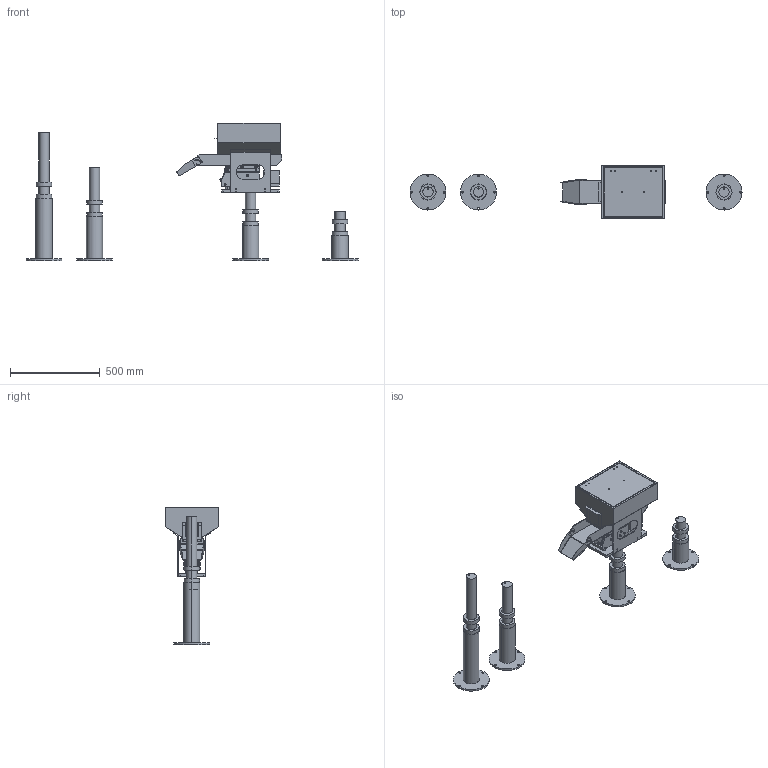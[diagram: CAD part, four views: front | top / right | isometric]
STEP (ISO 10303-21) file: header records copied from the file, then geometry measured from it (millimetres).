
FILE_DESCRIPTION (( 'STEP AP203' ), '1' );
FILE_NAME ('350蹋累 盓翐恁倰-0.STEP', '2025-07-11T08:43:48', ( '' ), ( '' ), 'SwSTEP 2.0', 'SolidWorks 2022', '' );
FILE_SCHEMA (( 'CONFIG_CONTROL_DESIGN' ));
Length unit declared in the file: millimetre
Products named in the file (1): 350蹋累  盓翐恁倰-0
Bounding box: 1846.85 x 300 x 765.15 mm (x, y, z)
Volume: 9591385.5 mm3; surface area: 2768616.8 mm2
Topology: 86 solids, 86 shells, 1200 faces, 3009 edges, 2019 vertices
Faces by surface type: plane 634, cylinder 494, torus 64, cone 8
Entity records: 38953 total; most frequent: CARTESIAN_POINT 8577, DIRECTION 6486, ORIENTED_EDGE 6002, EDGE_CURVE 3001, AXIS2_PLACEMENT_3D 2362, VERTEX_POINT 2019, VECTOR 1762, LINE 1762
